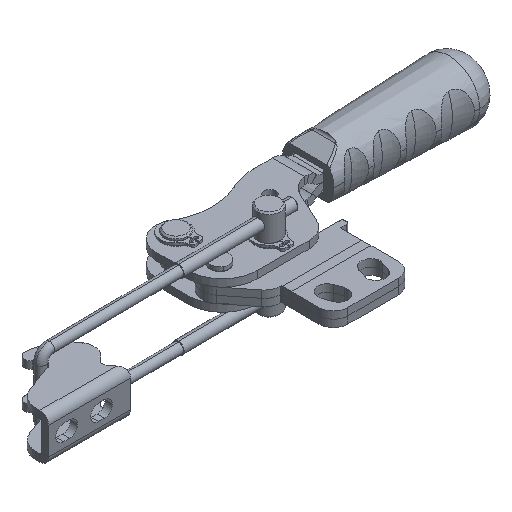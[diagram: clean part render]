
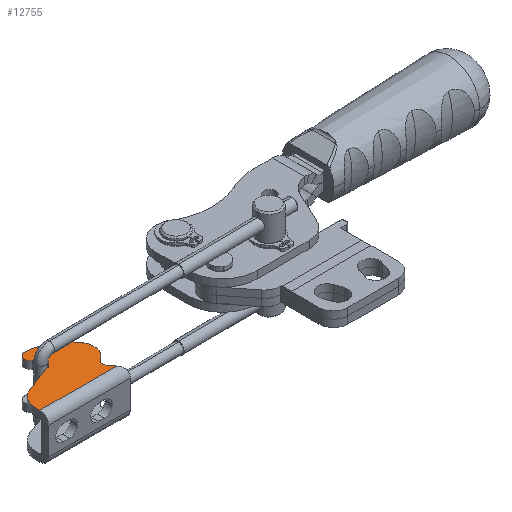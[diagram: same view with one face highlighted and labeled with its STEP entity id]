
A CAD part, isometric view. The second image highlights one B-rep face of the part: STEP entity #12755.
In plain terms, the highlighted planar face has unit normal (0, 0, 1) as drawn and (0, -1, 0) by its records, which use the part's own axes.
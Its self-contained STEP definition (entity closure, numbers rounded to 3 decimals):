
#254 = VECTOR ( 'NONE', #3418, 1000. ) ;
#573 = LINE ( 'NONE', #3686, #254 ) ;
#921 = DIRECTION ( 'NONE',  ( 0.843, 0., -0.537 ) ) ;
#1199 = CARTESIAN_POINT ( 'NONE',  ( 1322.93, 129.368, 107.032 ) ) ;
#1245 = CARTESIAN_POINT ( 'NONE',  ( 1324.216, 129.368, 105.5 ) ) ;
#1446 = DIRECTION ( 'NONE',  ( -1., 0., 0. ) ) ;
#1670 = CARTESIAN_POINT ( 'NONE',  ( 1323.976, 129.368, 107.909 ) ) ;
#2059 = CARTESIAN_POINT ( 'NONE',  ( 1297.532, 129.368, 103.944 ) ) ;
#2132 = ORIENTED_EDGE ( 'NONE', *, *, #4054, .F. ) ;
#2241 = CIRCLE ( 'NONE', #18613, 2.15 ) ;
#2485 = DIRECTION ( 'NONE',  ( 0., -1., 0. ) ) ;
#3034 = ORIENTED_EDGE ( 'NONE', *, *, #13387, .F. ) ;
#3418 = DIRECTION ( 'NONE',  ( 0., 0., 1. ) ) ;
#3441 = DIRECTION ( 'NONE',  ( 0., 0., -1. ) ) ;
#3454 = CARTESIAN_POINT ( 'NONE',  ( 1322.93, 129.368, 107.032 ) ) ;
#3557 = CIRCLE ( 'NONE', #10826, 2. ) ;
#3686 = CARTESIAN_POINT ( 'NONE',  ( 1297.532, 129.368, 109.05 ) ) ;
#3763 = DIRECTION ( 'NONE',  ( -0.766, 0., -0.643 ) ) ;
#3844 = DIRECTION ( 'NONE',  ( 0., 0., -1. ) ) ;
#3860 = CARTESIAN_POINT ( 'NONE',  ( 1312.279, 129.368, 122.492 ) ) ;
#3867 = EDGE_CURVE ( 'NONE', #18616, #5869, #11577, .T. ) ;
#3875 = VECTOR ( 'NONE', #18648, 1000. ) ;
#4054 = EDGE_CURVE ( 'NONE', #10849, #17725, #16449, .T. ) ;
#4394 = ORIENTED_EDGE ( 'NONE', *, *, #17526, .T. ) ;
#4434 = CARTESIAN_POINT ( 'NONE',  ( 1325.113, 129.368, 115.348 ) ) ;
#4679 = ORIENTED_EDGE ( 'NONE', *, *, #7381, .F. ) ;
#4752 = CARTESIAN_POINT ( 'NONE',  ( 1304.532, 129.368, 103.944 ) ) ;
#5173 = CARTESIAN_POINT ( 'NONE',  ( 1312.248, 129.368, 120.343 ) ) ;
#5334 = PLANE ( 'NONE',  #10371 ) ;
#5352 = EDGE_CURVE ( 'NONE', #5869, #10849, #14446, .T. ) ;
#5446 = ORIENTED_EDGE ( 'NONE', *, *, #18102, .F. ) ;
#5715 = LINE ( 'NONE', #5897, #7943 ) ;
#5869 = VERTEX_POINT ( 'NONE', #12482 ) ;
#5897 = CARTESIAN_POINT ( 'NONE',  ( 1316.918, 129.368, 102.5 ) ) ;
#6012 = CARTESIAN_POINT ( 'NONE',  ( 1312.415, 129.368, 117.687 ) ) ;
#6171 = CIRCLE ( 'NONE', #17420, 2.15 ) ;
#7013 = CARTESIAN_POINT ( 'NONE',  ( 1323.997, 129.368, 102.5 ) ) ;
#7330 = VERTEX_POINT ( 'NONE', #7013 ) ;
#7381 = EDGE_CURVE ( 'NONE', #13700, #13923, #3557, .T. ) ;
#7665 = EDGE_CURVE ( 'NONE', #12443, #18616, #573, .T. ) ;
#7943 = VECTOR ( 'NONE', #1446, 1000. ) ;
#8263 = EDGE_CURVE ( 'NONE', #8360, #13700, #18296, .T. ) ;
#8360 = VERTEX_POINT ( 'NONE', #1670 ) ;
#8378 = CARTESIAN_POINT ( 'NONE',  ( 1311.093, 129.368, 118.529 ) ) ;
#8397 = EDGE_LOOP ( 'NONE', ( #16661, #4679, #10749, #3034, #18771, #10292, #5446, #4394, #2132, #15631, #17642, #13517, #15608 ) ) ;
#8568 = DIRECTION ( 'NONE',  ( 0., 1., 0. ) ) ;
#8823 = CARTESIAN_POINT ( 'NONE',  ( 1322.629, 129.368, 104.282 ) ) ;
#9355 = VERTEX_POINT ( 'NONE', #4434 ) ;
#9428 = AXIS2_PLACEMENT_3D ( 'NONE', #4752, #8568, #10538 ) ;
#9677 = VERTEX_POINT ( 'NONE', #8378 ) ;
#10073 = AXIS2_PLACEMENT_3D ( 'NONE', #17080, #10116, #11650 ) ;
#10116 = DIRECTION ( 'NONE',  ( 0., 1., 0. ) ) ;
#10292 = ORIENTED_EDGE ( 'NONE', *, *, #17400, .F. ) ;
#10371 = AXIS2_PLACEMENT_3D ( 'NONE', #14329, #16930, #12999 ) ;
#10538 = DIRECTION ( 'NONE',  ( 0., 0., -1. ) ) ;
#10639 = CARTESIAN_POINT ( 'NONE',  ( 1311.341, 129.368, 116. ) ) ;
#10749 = ORIENTED_EDGE ( 'NONE', *, *, #8263, .F. ) ;
#10826 = AXIS2_PLACEMENT_3D ( 'NONE', #1245, #2485, #18618 ) ;
#10849 = VERTEX_POINT ( 'NONE', #14376 ) ;
#11519 = EDGE_CURVE ( 'NONE', #13923, #7330, #17977, .T. ) ;
#11577 = CIRCLE ( 'NONE', #9428, 7. ) ;
#11650 = DIRECTION ( 'NONE',  ( 0., 0., -1. ) ) ;
#11672 = FACE_OUTER_BOUND ( 'NONE', #8397, .T. ) ;
#11776 = CIRCLE ( 'NONE', #12971, 5.7 ) ;
#12088 = VECTOR ( 'NONE', #16464, 1000. ) ;
#12132 = CARTESIAN_POINT ( 'NONE',  ( 1297.532, 129.368, 102.5 ) ) ;
#12443 = VERTEX_POINT ( 'NONE', #12132 ) ;
#12482 = CARTESIAN_POINT ( 'NONE',  ( 1302.138, 129.368, 110.522 ) ) ;
#12492 = CARTESIAN_POINT ( 'NONE',  ( 1320.312, 129.368, 112.276 ) ) ;
#12497 = VERTEX_POINT ( 'NONE', #3860 ) ;
#12755 = ADVANCED_FACE ( 'NONE', ( #11672 ), #5334, .F. ) ;
#12971 = AXIS2_PLACEMENT_3D ( 'NONE', #12492, #18195, #3844 ) ;
#12999 = DIRECTION ( 'NONE',  ( 0., 0., 1. ) ) ;
#13033 = EDGE_CURVE ( 'NONE', #12497, #9355, #18289, .T. ) ;
#13288 = VECTOR ( 'NONE', #3763, 1000. ) ;
#13299 = DIRECTION ( 'NONE',  ( 0., 0., -1. ) ) ;
#13387 = EDGE_CURVE ( 'NONE', #9355, #8360, #11776, .T. ) ;
#13389 = AXIS2_PLACEMENT_3D ( 'NONE', #10639, #15199, #3441 ) ;
#13517 = ORIENTED_EDGE ( 'NONE', *, *, #7665, .F. ) ;
#13700 = VERTEX_POINT ( 'NONE', #3454 ) ;
#13909 = CARTESIAN_POINT ( 'NONE',  ( 1312.415, 129.368, 117.687 ) ) ;
#13923 = VERTEX_POINT ( 'NONE', #8823 ) ;
#14002 = DIRECTION ( 'NONE',  ( 0., 1., 0. ) ) ;
#14190 = LINE ( 'NONE', #13909, #18018 ) ;
#14329 = CARTESIAN_POINT ( 'NONE',  ( 1316.918, 129.368, 109.05 ) ) ;
#14355 = CARTESIAN_POINT ( 'NONE',  ( 1302.138, 129.368, 110.522 ) ) ;
#14376 = CARTESIAN_POINT ( 'NONE',  ( 1312.025, 129.368, 114.121 ) ) ;
#14446 = LINE ( 'NONE', #14355, #3875 ) ;
#14915 = CARTESIAN_POINT ( 'NONE',  ( 1312.248, 129.368, 120.343 ) ) ;
#14996 = EDGE_CURVE ( 'NONE', #7330, #12443, #5715, .T. ) ;
#15199 = DIRECTION ( 'NONE',  ( 0., -1., 0. ) ) ;
#15242 = DIRECTION ( 'NONE',  ( 0., 0., -1. ) ) ;
#15608 = ORIENTED_EDGE ( 'NONE', *, *, #14996, .F. ) ;
#15631 = ORIENTED_EDGE ( 'NONE', *, *, #5352, .F. ) ;
#16359 = DIRECTION ( 'NONE',  ( 0., 1., 0. ) ) ;
#16449 = CIRCLE ( 'NONE', #13389, 2. ) ;
#16464 = DIRECTION ( 'NONE',  ( 0.609, 0., -0.793 ) ) ;
#16661 = ORIENTED_EDGE ( 'NONE', *, *, #11519, .F. ) ;
#16930 = DIRECTION ( 'NONE',  ( 0., 1., 0. ) ) ;
#17080 = CARTESIAN_POINT ( 'NONE',  ( 1312.057, 129.368, 106.994 ) ) ;
#17400 = EDGE_CURVE ( 'NONE', #17796, #12497, #2241, .T. ) ;
#17420 = AXIS2_PLACEMENT_3D ( 'NONE', #14915, #16359, #13299 ) ;
#17526 = EDGE_CURVE ( 'NONE', #9677, #17725, #14190, .T. ) ;
#17642 = ORIENTED_EDGE ( 'NONE', *, *, #3867, .F. ) ;
#17725 = VERTEX_POINT ( 'NONE', #6012 ) ;
#17796 = VERTEX_POINT ( 'NONE', #18183 ) ;
#17884 = CARTESIAN_POINT ( 'NONE',  ( 1322.629, 129.368, 104.282 ) ) ;
#17977 = LINE ( 'NONE', #17884, #12088 ) ;
#18018 = VECTOR ( 'NONE', #921, 1000. ) ;
#18102 = EDGE_CURVE ( 'NONE', #9677, #17796, #6171, .T. ) ;
#18183 = CARTESIAN_POINT ( 'NONE',  ( 1312.248, 129.368, 122.493 ) ) ;
#18195 = DIRECTION ( 'NONE',  ( 0., 1., 0. ) ) ;
#18289 = CIRCLE ( 'NONE', #10073, 15.5 ) ;
#18296 = LINE ( 'NONE', #1199, #13288 ) ;
#18613 = AXIS2_PLACEMENT_3D ( 'NONE', #5173, #14002, #15242 ) ;
#18616 = VERTEX_POINT ( 'NONE', #2059 ) ;
#18618 = DIRECTION ( 'NONE',  ( 0., 0., -1. ) ) ;
#18648 = DIRECTION ( 'NONE',  ( 0.94, 0., 0.342 ) ) ;
#18771 = ORIENTED_EDGE ( 'NONE', *, *, #13033, .F. ) ;
